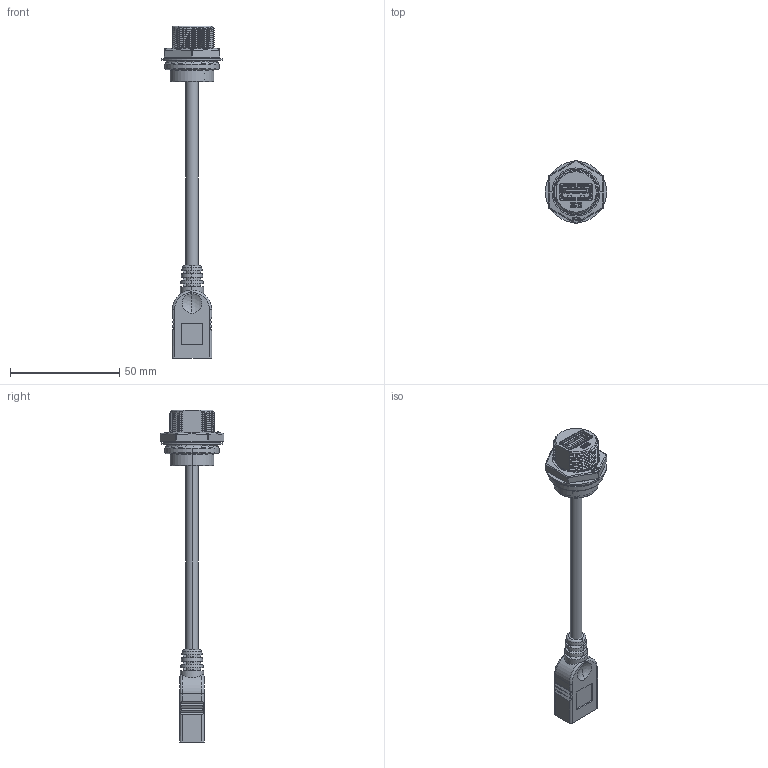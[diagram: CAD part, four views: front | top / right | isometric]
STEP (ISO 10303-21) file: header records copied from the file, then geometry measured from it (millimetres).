
FILE_DESCRIPTION (( 'STEP AP203' ), '1' );
FILE_NAME ('GT218300-03-XX.STEP', '2016-01-18T03:02:37', ( '' ), ( '' ), 'SwSTEP 2.0', 'SolidWorks 2012', '' );
FILE_SCHEMA (( 'CONFIG_CONTROL_DESIGN' ));
Length unit declared in the file: millimetre
Products named in the file (17): GT218300-03-XX; RR-AF; USB A 3.0 F; AF; Cable 5.5; 65225-X0010_01; 66225-00020; 67225-00110; GT118 GLUE; 58225-22002; 93118-01001; 83002-F3201; 83002(PIN); 83002(BASE); 83002(FRAM); 59118-01002; 60218-3ZA01
Assembly tree (25 placements, depth 4):
  GT218300-03-XX
    60218-3ZA01
    93118-01001
      59118-01002
      83002-F3201
        83002(FRAM)
        83002(BASE)
        83002(PIN)  x4
    58225-22002
    GT118 GLUE
    67225-00110
    66225-00020
    65225-X0010_01
    Cable 5.5
    RR-AF
      AF
      USB A 3.0 F
        83002(FRAM)
        83002(BASE)
        83002(PIN)  x4
Bounding box: 28 x 29.17 x 151.8 mm (x, y, z)
Volume: 14037 mm3; surface area: 17417.2 mm2
Topology: 21 solids, 21 shells, 1802 faces, 4972 edges, 3211 vertices
Faces by surface type: plane 1144, cylinder 485, bspline 92, cone 44, torus 21, sphere 16
Entity records: 77116 total; most frequent: CARTESIAN_POINT 45563, ORIENTED_EDGE 6780, DIRECTION 5483, EDGE_CURVE 3390, VERTEX_POINT 2175, LINE 1903, VECTOR 1903, AXIS2_PLACEMENT_3D 1790
